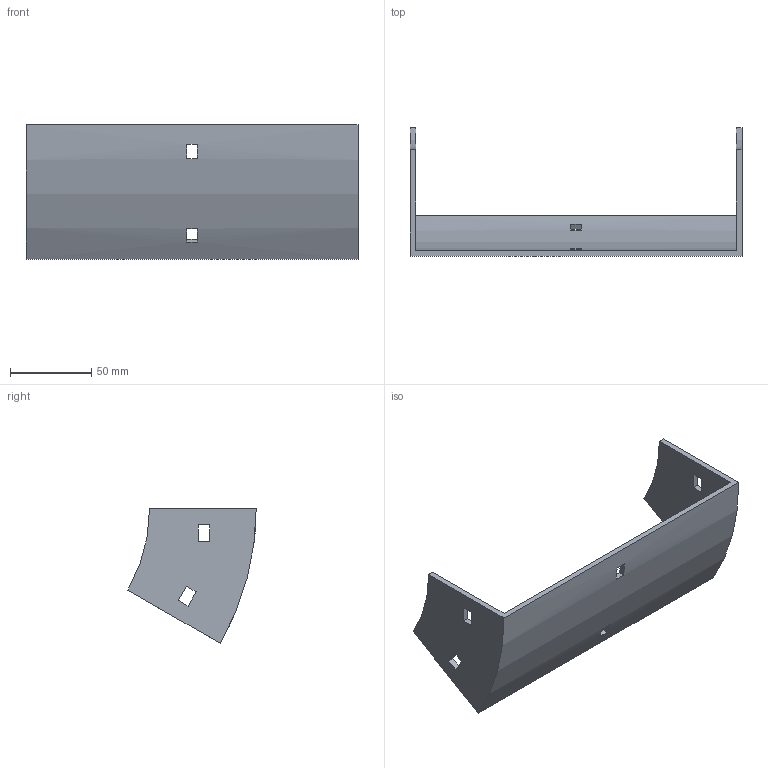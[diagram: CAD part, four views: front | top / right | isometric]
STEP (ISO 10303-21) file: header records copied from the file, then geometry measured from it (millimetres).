
FILE_DESCRIPTION (( 'STEP AP214' ), '1' );
FILE_NAME ('32B1H200.step', '2025-02-21T09:44:03', ( '' ), ( '' ), 'SwSTEP 2.0', 'SolidWorks 2023', '' );
FILE_SCHEMA (( 'AUTOMOTIVE_DESIGN' ));
Length unit declared in the file: millimetre
Products named in the file (1): 32B1H200
Bounding box: 204 x 78.9 x 82.75 mm (x, y, z)
Volume: 89594.9 mm3; surface area: 54560.2 mm2
Topology: 1 solids, 1 shells, 34 faces, 96 edges, 64 vertices
Faces by surface type: plane 30, cylinder 4
Entity records: 1143 total; most frequent: CARTESIAN_POINT 195, ORIENTED_EDGE 192, DIRECTION 182, EDGE_CURVE 96, VECTOR 80, LINE 80, VERTEX_POINT 64, AXIS2_PLACEMENT_3D 51
